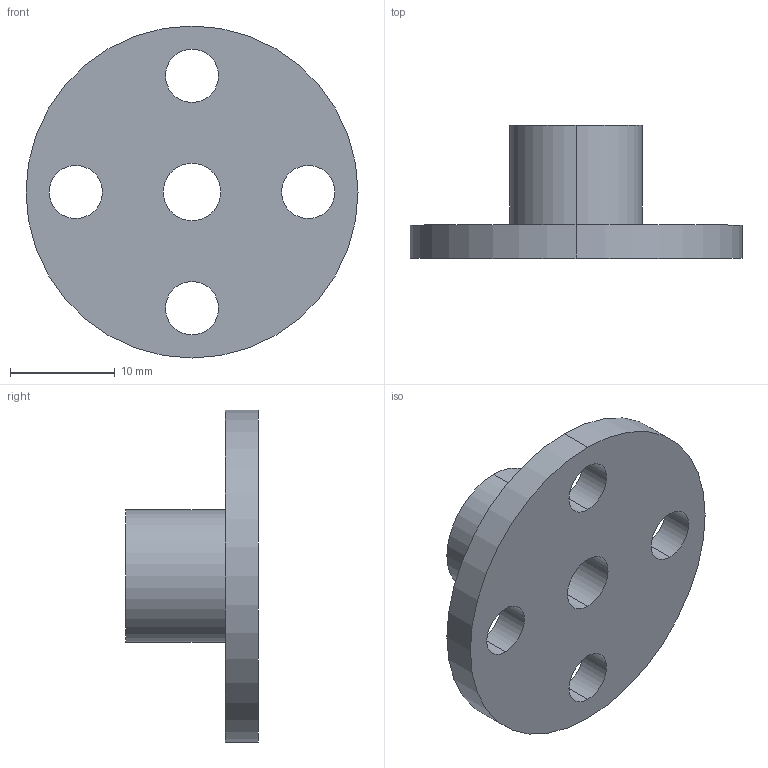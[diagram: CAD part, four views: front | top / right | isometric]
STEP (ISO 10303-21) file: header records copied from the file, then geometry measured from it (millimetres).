
FILE_DESCRIPTION (( 'STEP AP214' ), '1' );
FILE_NAME ('bolt to screw converter.STEP', '2023-11-02T16:04:16', ( '' ), ( '' ), 'SwSTEP 2.0', 'SolidWorks 2023', '' );
FILE_SCHEMA (( 'AUTOMOTIVE_DESIGN' ));
Length unit declared in the file: metre
Products named in the file (1): bolt to screw converter
Bounding box: 31.75 x 12.7 x 31.75 mm (x, y, z)
Volume: 3161.2 mm3; surface area: 2492.6 mm2
Topology: 1 solids, 1 shells, 17 faces, 42 edges, 28 vertices
Faces by surface type: cylinder 14, plane 3
Entity records: 567 total; most frequent: DIRECTION 106, CARTESIAN_POINT 88, ORIENTED_EDGE 84, AXIS2_PLACEMENT_3D 46, EDGE_CURVE 42, CIRCLE 28, EDGE_LOOP 28, VERTEX_POINT 28
